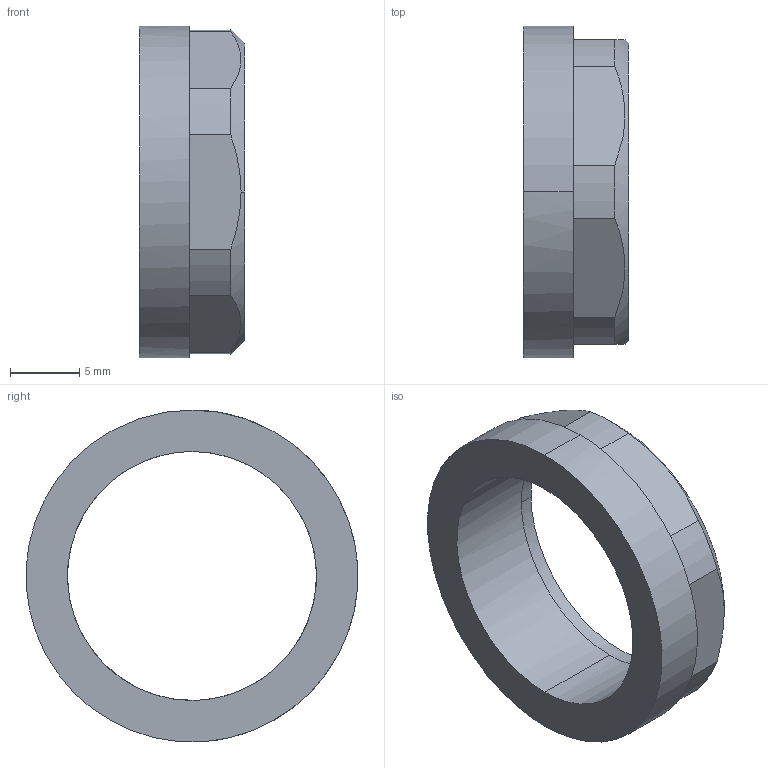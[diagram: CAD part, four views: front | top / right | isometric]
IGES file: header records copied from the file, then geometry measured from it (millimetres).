
Global section: file name: D:\TMP\DSD-0018.igs; preprocessor: I-DEAS 3D IGES Translator 11; date: 20060525.153229; units: millimetre
Bounding box: 7.6 x 23.96 x 24 mm (x, y, z)
Volume: 1311.2 mm3; surface area: 1358.7 mm2
Topology: 1 solids, 1 shells, 23 faces, 74 edges, 54 vertices
Faces by surface type: bspline 23
